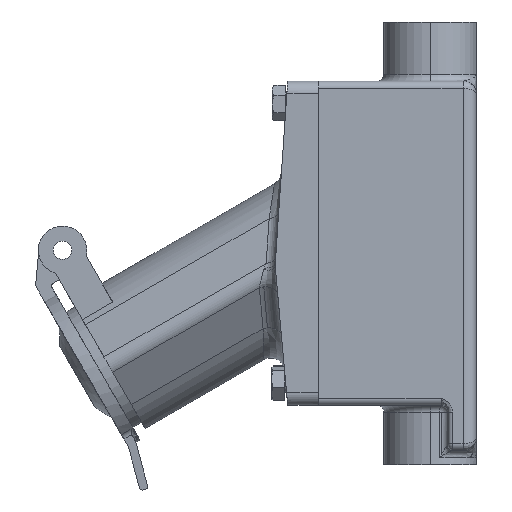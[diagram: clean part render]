
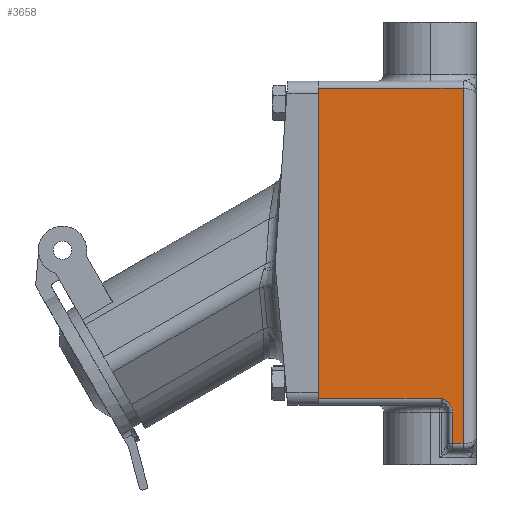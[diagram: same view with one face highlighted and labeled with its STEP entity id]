
A CAD part, left-side view. The second image highlights one B-rep face of the part: STEP entity #3658.
In plain terms, the highlighted planar face has unit normal (-1, 0, 0).
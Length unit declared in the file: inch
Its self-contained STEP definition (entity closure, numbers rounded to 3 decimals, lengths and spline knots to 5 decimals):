
#93 = B_SPLINE_CURVE_WITH_KNOTS ( 'NONE', 3,
 ( #2375, #6951, #5124, #8796, #3294, #9713, #4240, #10639, #5171, #11566, #6082, #559, #6989, #1486 ),
 .UNSPECIFIED., .F., .F.,
 ( 4, 2, 2, 2, 2, 2, 4 ),
 ( -0.00001, 0.00171, 0.00344, 0.0043, 0.00517, 0.00603, 0.00689 ),
 .UNSPECIFIED. ) ;
#352 = CARTESIAN_POINT ( 'NONE',  ( -1.5, 1.59075, -6.45 ) ) ;
#422 = CARTESIAN_POINT ( 'NONE',  ( -1.5, 1.59075, -2.025 ) ) ;
#559 = CARTESIAN_POINT ( 'NONE',  ( -1.5, -0.32061, -6.62387 ) ) ;
#814 = ORIENTED_EDGE ( 'NONE', *, *, #8585, .T. ) ;
#898 = ORIENTED_EDGE ( 'NONE', *, *, #2131, .T. ) ;
#1090 = VERTEX_POINT ( 'NONE', #7762 ) ;
#1147 = EDGE_CURVE ( 'NONE', #7652, #9898, #93, .T. ) ;
#1170 = VECTOR ( 'NONE', #7780, 39.37008 ) ;
#1238 = ORIENTED_EDGE ( 'NONE', *, *, #1147, .T. ) ;
#1286 = DIRECTION ( 'NONE',  ( 0., -1., 0. ) ) ;
#1486 = CARTESIAN_POINT ( 'NONE',  ( -1.5, -0.32175, -6.64645 ) ) ;
#1516 = CARTESIAN_POINT ( 'NONE',  ( -1.5, 1.59075, -6.55 ) ) ;
#1605 = EDGE_LOOP ( 'NONE', ( #8096, #3954, #898, #8768, #814, #1238, #3504 ) ) ;
#1752 = DIRECTION ( 'NONE',  ( 1., 0., 0. ) ) ;
#2077 = VECTOR ( 'NONE', #4128, 39.37008 ) ;
#2131 = EDGE_CURVE ( 'NONE', #6700, #1090, #6065, .T. ) ;
#2163 = VERTEX_POINT ( 'NONE', #3181 ) ;
#2375 = CARTESIAN_POINT ( 'NONE',  ( -1.5, -0.15925, -6.45 ) ) ;
#2946 = LINE ( 'NONE', #352, #7561 ) ;
#3181 = CARTESIAN_POINT ( 'NONE',  ( -1.5, 1.59075, -6.45 ) ) ;
#3294 = CARTESIAN_POINT ( 'NONE',  ( -1.5, -0.25667, -6.50748 ) ) ;
#3504 = ORIENTED_EDGE ( 'NONE', *, *, #7566, .T. ) ;
#3571 = VECTOR ( 'NONE', #5234, 39.37008 ) ;
#3658 = ADVANCED_FACE ( 'NONE', ( #5614 ), #10900, .F. ) ;
#3865 = AXIS2_PLACEMENT_3D ( 'NONE', #6349, #1752, #8183 ) ;
#3954 = ORIENTED_EDGE ( 'NONE', *, *, #10805, .T. ) ;
#4082 = VERTEX_POINT ( 'NONE', #4793 ) ;
#4128 = DIRECTION ( 'NONE',  ( 0., 0., 1. ) ) ;
#4225 = CARTESIAN_POINT ( 'NONE',  ( -1.5, -0.32175, -7.095 ) ) ;
#4240 = CARTESIAN_POINT ( 'NONE',  ( -1.5, -0.28662, -6.54115 ) ) ;
#4414 = VECTOR ( 'NONE', #9700, 39.37008 ) ;
#4541 = LINE ( 'NONE', #8684, #2077 ) ;
#4793 = CARTESIAN_POINT ( 'NONE',  ( -1.5, -0.47175, -7.095 ) ) ;
#5124 = CARTESIAN_POINT ( 'NONE',  ( -1.5, -0.20013, -6.4697 ) ) ;
#5171 = CARTESIAN_POINT ( 'NONE',  ( -1.5, -0.30419, -6.57004 ) ) ;
#5234 = DIRECTION ( 'NONE',  ( 0., 0., 1. ) ) ;
#5329 = VERTEX_POINT ( 'NONE', #6767 ) ;
#5614 = FACE_OUTER_BOUND ( 'NONE', #1605, .T. ) ;
#5990 = EDGE_CURVE ( 'NONE', #2163, #1090, #10885, .T. ) ;
#6065 = LINE ( 'NONE', #422, #1170 ) ;
#6082 = CARTESIAN_POINT ( 'NONE',  ( -1.5, -0.31616, -6.60179 ) ) ;
#6154 = CARTESIAN_POINT ( 'NONE',  ( -1.5, -0.15925, -6.45 ) ) ;
#6349 = CARTESIAN_POINT ( 'NONE',  ( -1.5, 1.59075, -6.55 ) ) ;
#6700 = VERTEX_POINT ( 'NONE', #8414 ) ;
#6767 = CARTESIAN_POINT ( 'NONE',  ( -1.5, -0.32175, -7.095 ) ) ;
#6843 = LINE ( 'NONE', #4225, #4414 ) ;
#6951 = CARTESIAN_POINT ( 'NONE',  ( -1.5, -0.17967, -6.45981 ) ) ;
#6989 = CARTESIAN_POINT ( 'NONE',  ( -1.5, -0.32175, -6.63508 ) ) ;
#7561 = VECTOR ( 'NONE', #1286, 39.37008 ) ;
#7566 = EDGE_CURVE ( 'NONE', #9898, #5329, #6843, .T. ) ;
#7652 = VERTEX_POINT ( 'NONE', #6154 ) ;
#7762 = CARTESIAN_POINT ( 'NONE',  ( -1.5, 1.59075, -2.025 ) ) ;
#7780 = DIRECTION ( 'NONE',  ( 0., 1., 0. ) ) ;
#7974 = CARTESIAN_POINT ( 'NONE',  ( -1.5, -0.65925, -7.095 ) ) ;
#8096 = ORIENTED_EDGE ( 'NONE', *, *, #8202, .T. ) ;
#8183 = DIRECTION ( 'NONE',  ( 0., 0., -1. ) ) ;
#8202 = EDGE_CURVE ( 'NONE', #5329, #4082, #11586, .T. ) ;
#8414 = CARTESIAN_POINT ( 'NONE',  ( -1.5, -0.47175, -2.025 ) ) ;
#8585 = EDGE_CURVE ( 'NONE', #2163, #7652, #2946, .T. ) ;
#8684 = CARTESIAN_POINT ( 'NONE',  ( -1.5, -0.47175, -6.55 ) ) ;
#8768 = ORIENTED_EDGE ( 'NONE', *, *, #5990, .F. ) ;
#8796 = CARTESIAN_POINT ( 'NONE',  ( -1.5, -0.2386, -6.49347 ) ) ;
#8890 = DIRECTION ( 'NONE',  ( 0., -1., 0. ) ) ;
#9634 = CARTESIAN_POINT ( 'NONE',  ( -1.5, -0.32175, -6.64645 ) ) ;
#9700 = DIRECTION ( 'NONE',  ( 0., 0., -1. ) ) ;
#9713 = CARTESIAN_POINT ( 'NONE',  ( -1.5, -0.27959, -6.53221 ) ) ;
#9898 = VERTEX_POINT ( 'NONE', #9634 ) ;
#10639 = CARTESIAN_POINT ( 'NONE',  ( -1.5, -0.29894, -6.56012 ) ) ;
#10805 = EDGE_CURVE ( 'NONE', #4082, #6700, #4541, .T. ) ;
#10885 = LINE ( 'NONE', #1516, #3571 ) ;
#10900 = PLANE ( 'NONE',  #3865 ) ;
#11004 = VECTOR ( 'NONE', #8890, 39.37008 ) ;
#11566 = CARTESIAN_POINT ( 'NONE',  ( -1.5, -0.3128, -6.59083 ) ) ;
#11586 = LINE ( 'NONE', #7974, #11004 ) ;
